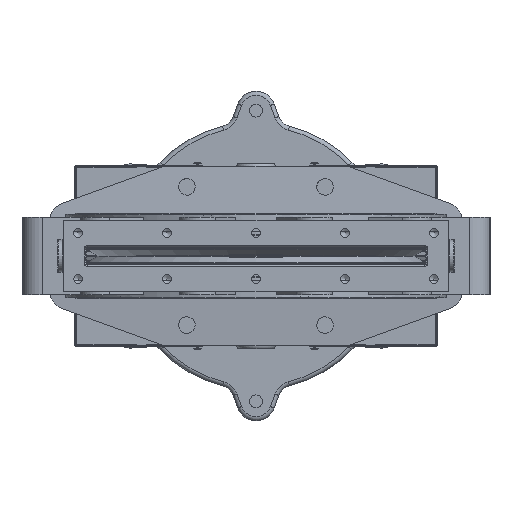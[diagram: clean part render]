
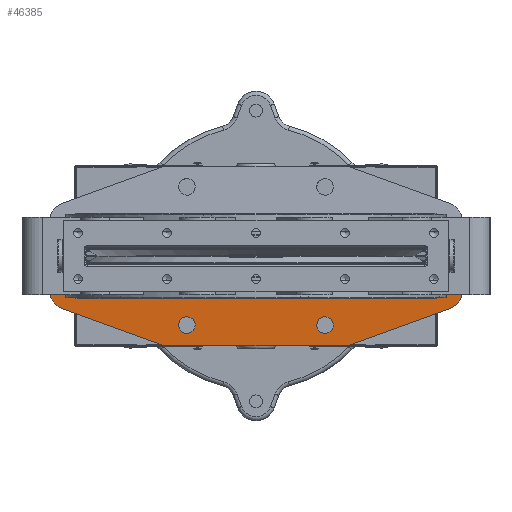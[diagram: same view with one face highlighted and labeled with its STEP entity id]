
A CAD part, front view. The second image highlights one B-rep face of the part: STEP entity #46385.
In plain terms, the highlighted planar face has unit normal (0, -0.998, -0.07).
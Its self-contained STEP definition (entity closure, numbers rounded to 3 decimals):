
#954=B_SPLINE_CURVE_WITH_KNOTS('',3,(#79582,#79583,#79584,#79585),
 .UNSPECIFIED.,.F.,.F.,(4,4),(0.,0.),.UNSPECIFIED.);
#955=B_SPLINE_CURVE_WITH_KNOTS('',3,(#79593,#79594,#79595,#79596),
 .UNSPECIFIED.,.F.,.F.,(4,4),(0.,0.),.UNSPECIFIED.);
#1743=ELLIPSE('',#50553,8.02,8.);
#1744=ELLIPSE('',#50554,8.02,8.);
#1745=ELLIPSE('',#50561,8.02,8.);
#1746=ELLIPSE('',#50562,8.02,8.);
#1747=ELLIPSE('',#50636,20.049,20.);
#1748=ELLIPSE('',#50640,20.049,20.);
#1749=ELLIPSE('',#50641,39.095,39.);
#1750=ELLIPSE('',#50642,39.095,39.);
#2003=FACE_BOUND('',#7731,.T.);
#2004=FACE_BOUND('',#7732,.T.);
#2784=PLANE('',#50639);
#4713=FACE_OUTER_BOUND('',#7730,.T.);
#7730=EDGE_LOOP('',(#36238,#36239,#36240,#36241,#36242,#36243,#36244,#36245,
#36246,#36247,#36248,#36249,#36250,#36251));
#7731=EDGE_LOOP('',(#36252,#36253));
#7732=EDGE_LOOP('',(#36254,#36255));
#10437=LINE('',#77951,#13078);
#10918=LINE('',#79555,#13559);
#10927=LINE('',#79572,#13568);
#10928=LINE('',#79574,#13569);
#10929=LINE('',#79578,#13570);
#10930=LINE('',#79580,#13571);
#10931=LINE('',#79589,#13572);
#10932=LINE('',#79597,#13573);
#13078=VECTOR('',#58901,1.);
#13559=VECTOR('',#60716,1.);
#13568=VECTOR('',#60727,1.);
#13569=VECTOR('',#60728,1.);
#13570=VECTOR('',#60731,1.);
#13571=VECTOR('',#60732,1.);
#13572=VECTOR('',#60735,1.);
#13573=VECTOR('',#60738,1.);
#19971=VERTEX_POINT('',#77948);
#19972=VERTEX_POINT('',#77950);
#20358=VERTEX_POINT('',#79337);
#20359=VERTEX_POINT('',#79339);
#20362=VERTEX_POINT('',#79351);
#20363=VERTEX_POINT('',#79353);
#20424=VERTEX_POINT('',#79545);
#20425=VERTEX_POINT('',#79546);
#20428=VERTEX_POINT('',#79554);
#20436=VERTEX_POINT('',#79573);
#20437=VERTEX_POINT('',#79575);
#20438=VERTEX_POINT('',#79577);
#20439=VERTEX_POINT('',#79579);
#20440=VERTEX_POINT('',#79581);
#20441=VERTEX_POINT('',#79586);
#20442=VERTEX_POINT('',#79588);
#20443=VERTEX_POINT('',#79590);
#20444=VERTEX_POINT('',#79592);
#25259=EDGE_CURVE('',#19971,#19972,#10437,.T.);
#25961=EDGE_CURVE('',#20359,#20358,#1743,.T.);
#25962=EDGE_CURVE('',#20358,#20359,#1744,.T.);
#25967=EDGE_CURVE('',#20363,#20362,#1745,.T.);
#25968=EDGE_CURVE('',#20362,#20363,#1746,.T.);
#26059=EDGE_CURVE('',#20424,#20425,#1747,.T.);
#26063=EDGE_CURVE('',#20425,#20428,#10918,.T.);
#26072=EDGE_CURVE('',#20424,#19972,#10927,.F.);
#26073=EDGE_CURVE('',#19971,#20436,#10928,.F.);
#26074=EDGE_CURVE('',#20437,#20436,#1748,.T.);
#26075=EDGE_CURVE('',#20437,#20438,#10929,.T.);
#26076=EDGE_CURVE('',#20438,#20439,#10930,.T.);
#26077=EDGE_CURVE('',#20439,#20440,#954,.T.);
#26078=EDGE_CURVE('',#20440,#20441,#1749,.F.);
#26079=EDGE_CURVE('',#20441,#20442,#10931,.T.);
#26080=EDGE_CURVE('',#20442,#20443,#1750,.F.);
#26081=EDGE_CURVE('',#20443,#20444,#955,.T.);
#26082=EDGE_CURVE('',#20444,#20428,#10932,.T.);
#36238=ORIENTED_EDGE('',*,*,#26059,.F.);
#36239=ORIENTED_EDGE('',*,*,#26072,.T.);
#36240=ORIENTED_EDGE('',*,*,#25259,.F.);
#36241=ORIENTED_EDGE('',*,*,#26073,.T.);
#36242=ORIENTED_EDGE('',*,*,#26074,.F.);
#36243=ORIENTED_EDGE('',*,*,#26075,.T.);
#36244=ORIENTED_EDGE('',*,*,#26076,.T.);
#36245=ORIENTED_EDGE('',*,*,#26077,.T.);
#36246=ORIENTED_EDGE('',*,*,#26078,.T.);
#36247=ORIENTED_EDGE('',*,*,#26079,.T.);
#36248=ORIENTED_EDGE('',*,*,#26080,.T.);
#36249=ORIENTED_EDGE('',*,*,#26081,.T.);
#36250=ORIENTED_EDGE('',*,*,#26082,.T.);
#36251=ORIENTED_EDGE('',*,*,#26063,.F.);
#36252=ORIENTED_EDGE('',*,*,#25961,.T.);
#36253=ORIENTED_EDGE('',*,*,#25962,.T.);
#36254=ORIENTED_EDGE('',*,*,#25967,.T.);
#36255=ORIENTED_EDGE('',*,*,#25968,.T.);
#46385=ADVANCED_FACE('',(#4713,#2003,#2004),#2784,.T.);
#50553=AXIS2_PLACEMENT_3D('',#79340,#60484,#60485);
#50554=AXIS2_PLACEMENT_3D('',#79341,#60486,#60487);
#50561=AXIS2_PLACEMENT_3D('',#79354,#60502,#60503);
#50562=AXIS2_PLACEMENT_3D('',#79355,#60504,#60505);
#50636=AXIS2_PLACEMENT_3D('',#79547,#60708,#60709);
#50639=AXIS2_PLACEMENT_3D('',#79571,#60725,#60726);
#50640=AXIS2_PLACEMENT_3D('',#79576,#60729,#60730);
#50641=AXIS2_PLACEMENT_3D('',#79587,#60733,#60734);
#50642=AXIS2_PLACEMENT_3D('',#79591,#60736,#60737);
#58901=DIRECTION('',(-1.,0.,0.));
#60484=DIRECTION('center_axis',(0.,0.998,0.07));
#60485=DIRECTION('ref_axis',(0.,0.07,-0.998));
#60486=DIRECTION('center_axis',(0.,0.998,0.07));
#60487=DIRECTION('ref_axis',(0.,0.07,-0.998));
#60502=DIRECTION('center_axis',(0.,0.998,0.07));
#60503=DIRECTION('ref_axis',(0.,0.07,-0.998));
#60504=DIRECTION('center_axis',(0.,0.998,0.07));
#60505=DIRECTION('ref_axis',(0.,0.07,-0.998));
#60708=DIRECTION('center_axis',(0.,0.998,0.07));
#60709=DIRECTION('ref_axis',(0.,0.07,-0.998));
#60716=DIRECTION('',(0.,-0.07,0.998));
#60725=DIRECTION('center_axis',(0.,-0.998,-0.07));
#60726=DIRECTION('ref_axis',(0.,0.07,-0.998));
#60727=DIRECTION('',(-0.939,-0.024,0.342));
#60728=DIRECTION('',(-0.939,0.024,-0.342));
#60729=DIRECTION('center_axis',(0.,0.998,0.07));
#60730=DIRECTION('ref_axis',(0.,0.07,-0.998));
#60731=DIRECTION('',(0.,-0.07,0.998));
#60732=DIRECTION('',(-1.,0.,0.));
#60733=DIRECTION('center_axis',(0.,-0.998,-0.07));
#60734=DIRECTION('ref_axis',(0.,-0.07,0.998));
#60735=DIRECTION('',(-1.,0.,0.));
#60736=DIRECTION('center_axis',(0.,-0.998,-0.07));
#60737=DIRECTION('ref_axis',(0.,-0.07,0.998));
#60738=DIRECTION('',(-1.,0.,0.));
#77948=CARTESIAN_POINT('',(90.,258.5,-87.5));
#77950=CARTESIAN_POINT('',(-90.,258.5,-87.5));
#77951=CARTESIAN_POINT('',(404798.025,258.5,-87.5));
#79337=CARTESIAN_POINT('',(-70.012,256.57,-59.905));
#79339=CARTESIAN_POINT('',(-67.5,256.542,-59.5));
#79340=CARTESIAN_POINT('Origin',(-67.5,257.101,-67.5));
#79341=CARTESIAN_POINT('Origin',(-67.5,257.101,-67.5));
#79351=CARTESIAN_POINT('',(64.988,256.57,-59.905));
#79353=CARTESIAN_POINT('',(67.5,256.542,-59.5));
#79354=CARTESIAN_POINT('Origin',(67.5,257.101,-67.5));
#79355=CARTESIAN_POINT('Origin',(67.5,257.101,-67.5));
#79545=CARTESIAN_POINT('',(-188.841,255.984,-51.525));
#79546=CARTESIAN_POINT('',(-202.,254.67,-32.731));
#79547=CARTESIAN_POINT('Origin',(-182.,254.67,-32.731));
#79554=CARTESIAN_POINT('',(-202.,253.5,-15.997));
#79555=CARTESIAN_POINT('',(-202.,258.5,-87.5));
#79571=CARTESIAN_POINT('Origin',(404798.025,258.5,-87.5));
#79572=CARTESIAN_POINT('',(357230.738,9352.769,-130141.613));
#79573=CARTESIAN_POINT('',(188.84,255.984,-51.525));
#79574=CARTESIAN_POINT('',(357251.885,-8831.726,129908.795));
#79575=CARTESIAN_POINT('',(202.,254.67,-32.731));
#79576=CARTESIAN_POINT('Origin',(182.,254.67,-32.731));
#79577=CARTESIAN_POINT('',(202.,253.5,-15.997));
#79578=CARTESIAN_POINT('',(202.,246.298,86.996));
#79579=CARTESIAN_POINT('',(200.77,253.5,-15.997));
#79580=CARTESIAN_POINT('',(-202.,253.5,-15.997));
#79581=CARTESIAN_POINT('',(200.482,253.497,-15.947));
#79582=CARTESIAN_POINT('Ctrl Pts',(200.77,253.5,-15.997));
#79583=CARTESIAN_POINT('Ctrl Pts',(200.671,253.5,-15.997));
#79584=CARTESIAN_POINT('Ctrl Pts',(200.575,253.499,-15.981));
#79585=CARTESIAN_POINT('Ctrl Pts',(200.482,253.497,-15.947));
#79586=CARTESIAN_POINT('',(164.,255.26,-41.163));
#79587=CARTESIAN_POINT('Origin',(164.,252.533,-2.163));
#79588=CARTESIAN_POINT('',(-164.,255.26,-41.163));
#79589=CARTESIAN_POINT('',(404798.025,255.26,-41.163));
#79590=CARTESIAN_POINT('',(-200.483,253.497,-15.947));
#79591=CARTESIAN_POINT('Origin',(-164.,252.533,-2.163));
#79592=CARTESIAN_POINT('',(-200.771,253.5,-15.997));
#79593=CARTESIAN_POINT('Ctrl Pts',(-200.483,253.497,-15.947));
#79594=CARTESIAN_POINT('Ctrl Pts',(-200.576,253.499,-15.981));
#79595=CARTESIAN_POINT('Ctrl Pts',(-200.672,253.5,-15.997));
#79596=CARTESIAN_POINT('Ctrl Pts',(-200.771,253.5,-15.997));
#79597=CARTESIAN_POINT('',(-202.,253.5,-15.997));
